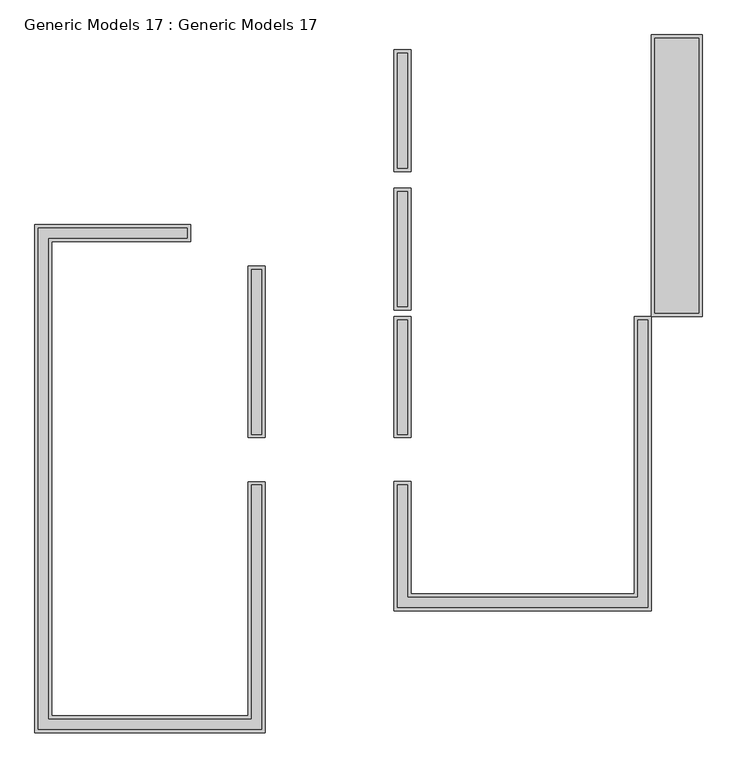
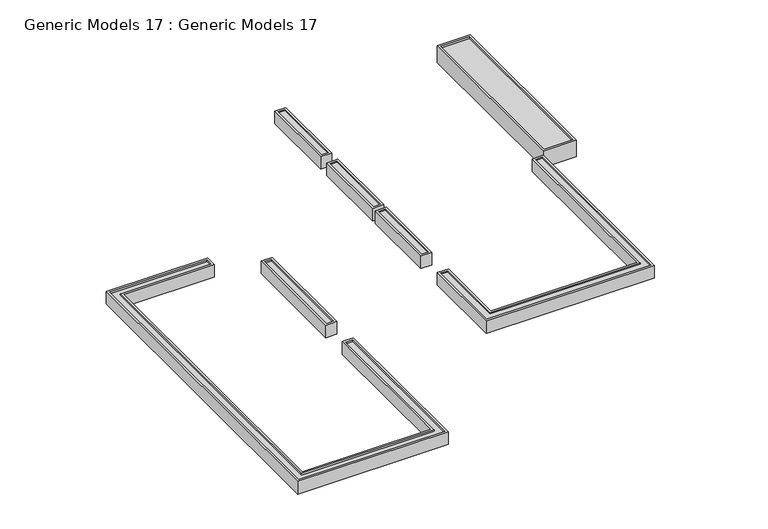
"""IFC4 building model written with IfcOpenShell, lengths in millimetres: proxy geometry, Generic Models 17 : Generic Models 17."""

from ifc_helpers import new_model, si_unit, origin, place, context, project, spatial, faceted_brep, source, transform, mapped, element, save


def generic_models_17_generic_models_17_0b87ad0e(model_context):
    return source(origin(), model_context, "Body", "Brep", [
        faceted_brep([(24543.1337784, 1566.9206658, 8000.0), (24543.1337784, 10254.720421, 8000.0), (24043.1337784, 10254.720421, 8000.0), (24043.1337784, 2066.9206658, 8000.0), (17443.1337784, 2066.9206658, 8000.0), (17443.1337784, 5375.457015, 8000.0), (16943.1337784, 5375.457015, 8000.0), (16943.1337784, 1566.9206658, 8000.0), (24443.1337784, 10154.720421, 8000.0), (24443.1337784, 1666.9206658, 8000.0), (17043.1337784, 1666.9206658, 8000.0), (17043.1337784, 5275.457015, 8000.0), (17343.1337784, 5275.457015, 8000.0), (17343.1337784, 1966.9206658, 8000.0), (24143.1337784, 1966.9206658, 8000.0), (24143.1337784, 10154.720421, 8000.0), (24543.1337784, 1566.9206658, 7400.0), (16943.1337784, 1566.9206658, 7400.0), (16943.1337784, 5375.457015, 7400.0), (17443.1337784, 5375.457015, 7400.0), (17443.1337784, 2066.9206658, 7400.0), (24043.1337784, 2066.9206658, 7400.0), (24043.1337784, 10254.720421, 7400.0), (24543.1337784, 10254.720421, 7400.0), (24443.1337784, 10154.720421, 7950.0), (24143.1337784, 10154.720421, 7950.0), (24143.1337784, 1966.9206658, 7950.0), (17343.1337784, 1966.9206658, 7950.0), (17343.1337784, 5275.457015, 7950.0), (17043.1337784, 5275.457015, 7950.0), (17043.1337784, 1666.9206658, 7950.0), (24443.1337784, 1666.9206658, 7950.0)], [[[0, 1, 2, 3, 4, 5, 6, 7], [8, 9, 10, 11, 12, 13, 14, 15]], [[16, 17, 18, 19, 20, 21, 22, 23]], [[1, 0, 16, 23]], [[2, 1, 23, 22]], [[3, 2, 22, 21]], [[4, 3, 21, 20]], [[5, 4, 20, 19]], [[6, 5, 19, 18]], [[7, 6, 18, 17]], [[0, 7, 17, 16]], [[24, 25, 26, 27, 28, 29, 30, 31]], [[24, 31, 9, 8]], [[31, 30, 10, 9]], [[30, 29, 11, 10]], [[29, 28, 12, 11]], [[28, 27, 13, 12]], [[27, 26, 14, 13]], [[26, 25, 15, 14]], [[25, 24, 8, 15]]]),
        faceted_brep([(16943.1337784, 10254.720421, 8000.0), (16943.1337784, 6675.457015, 8000.0), (17443.1337784, 6675.457015, 8000.0), (17443.1337784, 10254.720421, 8000.0), (17043.1337784, 6775.457015, 8000.0), (17043.1337784, 10154.720421, 8000.0), (17343.1337784, 10154.720421, 8000.0), (17343.1337784, 6775.457015, 8000.0), (16943.1337784, 10254.720421, 7400.0), (17443.1337784, 10254.720421, 7400.0), (17443.1337784, 6675.457015, 7400.0), (16943.1337784, 6675.457015, 7400.0), (17043.1337784, 6775.457015, 7950.0), (17343.1337784, 6775.457015, 7950.0), (17343.1337784, 10154.720421, 7950.0), (17043.1337784, 10154.720421, 7950.0)], [[[0, 1, 2, 3], [4, 5, 6, 7]], [[8, 9, 10, 11]], [[1, 0, 8, 11]], [[2, 1, 11, 10]], [[3, 2, 10, 9]], [[0, 3, 9, 8]], [[12, 13, 14, 15]], [[12, 15, 5, 4]], [[15, 14, 6, 5]], [[14, 13, 7, 6]], [[13, 12, 4, 7]]]),
        faceted_brep([(17443.1337784, 10444.6285257, 8000.0), (17443.1337784, 14044.6285257, 8000.0), (16943.1337784, 14044.6285257, 8000.0), (16943.1337784, 10444.6285257, 8000.0), (17343.1337784, 10544.6285257, 8000.0), (17043.1337784, 10544.6285257, 8000.0), (17043.1337784, 13944.6285257, 8000.0), (17343.1337784, 13944.6285257, 8000.0), (17443.1337784, 10444.6285257, 7400.0), (16943.1337784, 10444.6285257, 7400.0), (16943.1337784, 14044.6285257, 7400.0), (17443.1337784, 14044.6285257, 7400.0), (17343.1337784, 10544.6285257, 7950.0), (17343.1337784, 13944.6285257, 7950.0), (17043.1337784, 13944.6285257, 7950.0), (17043.1337784, 10544.6285257, 7950.0)], [[[0, 1, 2, 3], [4, 5, 6, 7]], [[8, 9, 10, 11]], [[12, 13, 14, 15]], [[1, 0, 8, 11]], [[2, 1, 11, 10]], [[3, 2, 10, 9]], [[0, 3, 9, 8]], [[12, 15, 5, 4]], [[15, 14, 6, 5]], [[14, 13, 7, 6]], [[13, 12, 4, 7]]]),
        faceted_brep([(17443.1337784, 14531.6538683, 8000.0), (17443.1337784, 18131.6538683, 8000.0), (16943.1337784, 18131.6538683, 8000.0), (16943.1337784, 14531.6538683, 8000.0), (17043.1337784, 14631.6538683, 8000.0), (17043.1337784, 18031.6538683, 8000.0), (17343.1337784, 18031.6538683, 8000.0), (17343.1337784, 14631.6538683, 8000.0), (17443.1337784, 14531.6538683, 7400.0), (16943.1337784, 14531.6538683, 7400.0), (16943.1337784, 18131.6538683, 7400.0), (17443.1337784, 18131.6538683, 7400.0), (17043.1337784, 14631.6538683, 7950.0), (17343.1337784, 14631.6538683, 7950.0), (17343.1337784, 18031.6538683, 7950.0), (17043.1337784, 18031.6538683, 7950.0)], [[[0, 1, 2, 3], [4, 5, 6, 7]], [[8, 9, 10, 11]], [[12, 13, 14, 15]], [[1, 0, 8, 11]], [[2, 1, 11, 10]], [[3, 2, 10, 9]], [[0, 3, 9, 8]], [[12, 15, 5, 4]], [[15, 14, 6, 5]], [[14, 13, 7, 6]], [[13, 12, 4, 7]]]),
        faceted_brep([(6343.1337784, 12966.9206658, 6200.0), (6343.1337784, -2033.0793342, 6200.0), (13143.1337784, -2033.0793342, 6200.0), (13143.1337784, 5375.457015, 6200.0), (12643.1337784, 5375.457015, 6200.0), (12643.1337784, -1533.0793342, 6200.0), (6843.1337784, -1533.0793342, 6200.0), (6843.1337784, 12466.9206658, 6200.0), (10942.1337784, 12466.9206658, 6200.0), (10942.1337784, 12966.9206658, 6200.0), (10842.1337784, 12866.9206658, 6200.0), (10842.1337784, 12566.9206658, 6200.0), (6743.1337784, 12566.9206658, 6200.0), (6743.1337784, -1633.0793342, 6200.0), (12743.1337784, -1633.0793342, 6200.0), (12743.1337784, 5275.457015, 6200.0), (13043.1337784, 5275.457015, 6200.0), (13043.1337784, -1933.0793342, 6200.0), (6443.1337784, -1933.0793342, 6200.0), (6443.1337784, 12866.9206658, 6200.0), (6343.1337784, 12966.9206658, 5600.0), (10942.1337784, 12966.9206658, 5600.0), (10942.1337784, 12466.9206658, 5600.0), (6843.1337784, 12466.9206658, 5600.0), (6843.1337784, -1533.0793342, 5600.0), (12643.1337784, -1533.0793342, 5600.0), (12643.1337784, 5375.457015, 5600.0), (13143.1337784, 5375.457015, 5600.0), (13143.1337784, -2033.0793342, 5600.0), (6343.1337784, -2033.0793342, 5600.0), (10842.1337784, 12866.9206658, 6120.0), (6443.1337784, 12866.9206658, 6120.0), (6443.1337784, -1933.0793342, 6120.0), (13043.1337784, -1933.0793342, 6120.0), (13043.1337784, 5275.457015, 6120.0), (12743.1337784, 5275.457015, 6120.0), (12743.1337784, -1633.0793342, 6120.0), (6743.1337784, -1633.0793342, 6120.0), (6743.1337784, 12566.9206658, 6120.0), (10842.1337784, 12566.9206658, 6120.0)], [[[0, 1, 2, 3, 4, 5, 6, 7, 8, 9], [10, 11, 12, 13, 14, 15, 16, 17, 18, 19]], [[20, 21, 22, 23, 24, 25, 26, 27, 28, 29]], [[1, 0, 20, 29]], [[2, 1, 29, 28]], [[3, 2, 28, 27]], [[4, 3, 27, 26]], [[5, 4, 26, 25]], [[6, 5, 25, 24]], [[7, 6, 24, 23]], [[8, 7, 23, 22]], [[9, 8, 22, 21]], [[0, 9, 21, 20]], [[30, 31, 32, 33, 34, 35, 36, 37, 38, 39]], [[30, 39, 11, 10]], [[39, 38, 12, 11]], [[38, 37, 13, 12]], [[37, 36, 14, 13]], [[36, 35, 15, 14]], [[35, 34, 16, 15]], [[34, 33, 17, 16]], [[33, 32, 18, 17]], [[32, 31, 19, 18]], [[31, 30, 10, 19]]]),
        faceted_brep([(13143.1337784, 6675.457015, 6200.0), (13143.1337784, 11736.9306658, 6200.0), (12643.1337784, 11736.9306658, 6200.0), (12643.1337784, 6675.457015, 6200.0), (12743.1337784, 6775.457015, 6200.0), (12743.1337784, 11636.9306658, 6200.0), (13043.1337784, 11636.9306658, 6200.0), (13043.1337784, 6775.457015, 6200.0), (13143.1337784, 6675.457015, 5600.0), (12643.1337784, 6675.457015, 5600.0), (12643.1337784, 11736.9306658, 5600.0), (13143.1337784, 11736.9306658, 5600.0), (12743.1337784, 6775.457015, 6120.0), (13043.1337784, 6775.457015, 6120.0), (13043.1337784, 11636.9306658, 6120.0), (12743.1337784, 11636.9306658, 6120.0)], [[[0, 1, 2, 3], [4, 5, 6, 7]], [[8, 9, 10, 11]], [[1, 0, 8, 11]], [[2, 1, 11, 10]], [[3, 2, 10, 9]], [[0, 3, 9, 8]], [[12, 13, 14, 15]], [[12, 15, 5, 4]], [[15, 14, 6, 5]], [[14, 13, 7, 6]], [[13, 12, 4, 7]]]),
        faceted_brep([(24543.1337784, 18566.9206658, 8200.0), (24543.1337784, 10254.720421, 8200.0), (26043.1337784, 10254.720421, 8200.0), (26043.1337784, 18566.9206658, 8200.0), (24643.1337784, 18466.9206658, 8200.0), (25943.1337784, 18466.9206658, 8200.0), (25943.1337784, 10354.720421, 8200.0), (24643.1337784, 10354.720421, 8200.0), (24543.1337784, 18566.9206658, 7400.0), (26043.1337784, 18566.9206658, 7400.0), (26043.1337784, 10254.720421, 7400.0), (24543.1337784, 10254.720421, 7400.0), (24643.1337784, 18466.9206658, 8120.0), (24643.1337784, 10354.720421, 8120.0), (25943.1337784, 10354.720421, 8120.0), (25943.1337784, 18466.9206658, 8120.0)], [[[0, 1, 2, 3], [4, 5, 6, 7]], [[8, 9, 10, 11]], [[1, 0, 8, 11]], [[2, 1, 11, 10]], [[3, 2, 10, 9]], [[0, 3, 9, 8]], [[12, 13, 14, 15]], [[12, 15, 5, 4]], [[15, 14, 6, 5]], [[14, 13, 7, 6]], [[13, 12, 4, 7]]]),
    ])


if __name__ == "__main__":
    model = new_model("IFC4")
    model_context = context("Model", 3, world=origin())
    ifc_project = project(units=[si_unit("LENGTHUNIT", "METRE", prefix="MILLI")], contexts=[model_context])
    site = spatial("IfcSite", under=ifc_project)
    building = spatial("IfcBuilding", under=site)
    placement = place(None, origin())
    generic_models_17_generic_models_17_shape = generic_models_17_generic_models_17_0b87ad0e(model_context)
    element("IfcBuildingElementProxy", 1, Name="Generic Models 17 : Generic Models 17", ObjectType="Generic Models 17 : Generic Models 17", at=placement, inside=building, context=model_context, shape_type="MappedRepresentation", body=[
        mapped(generic_models_17_generic_models_17_shape, transform((0.0, 0.0, 0.0), x_axis=(1.0, 0.0, 0.0), y_axis=(0.0, 1.0, 0.0), z_axis=(0.0, 0.0, 1.0))),
    ])
    save(model, "model.ifc")
